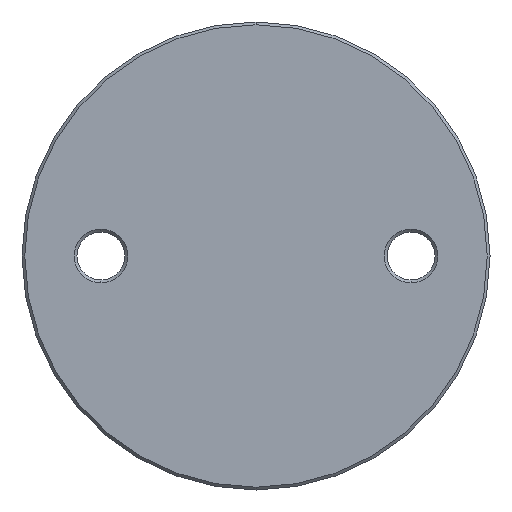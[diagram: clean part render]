
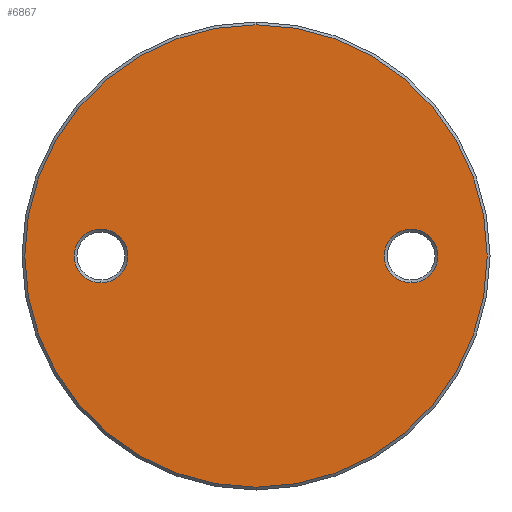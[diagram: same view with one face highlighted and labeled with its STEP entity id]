
A CAD part, front view. The second image highlights one B-rep face of the part: STEP entity #6867.
In plain terms, the highlighted planar face has unit normal (0, -1, 0).
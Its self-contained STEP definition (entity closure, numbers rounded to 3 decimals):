
#141 = ORIENTED_EDGE ( 'NONE', *, *, #7526, .T. ) ;
#202 = CIRCLE ( 'NONE', #10099, 41. ) ;
#822 = CARTESIAN_POINT ( 'NONE',  ( -27.5, -3., 4.75 ) ) ;
#955 = AXIS2_PLACEMENT_3D ( 'NONE', #5734, #6488, #1586 ) ;
#1092 = ORIENTED_EDGE ( 'NONE', *, *, #2969, .T. ) ;
#1266 = DIRECTION ( 'NONE',  ( 0., 1., 0. ) ) ;
#1325 = AXIS2_PLACEMENT_3D ( 'NONE', #9688, #6433, #3810 ) ;
#1586 = DIRECTION ( 'NONE',  ( 0., 0., -1. ) ) ;
#2655 = CIRCLE ( 'NONE', #8146, 4.75 ) ;
#2969 = EDGE_CURVE ( 'NONE', #4762, #7680, #2655, .T. ) ;
#3097 = AXIS2_PLACEMENT_3D ( 'NONE', #9011, #5774, #4050 ) ;
#3402 = ORIENTED_EDGE ( 'NONE', *, *, #8744, .T. ) ;
#3512 = EDGE_LOOP ( 'NONE', ( #3402, #9401 ) ) ;
#3684 = CARTESIAN_POINT ( 'NONE',  ( 27.5, -3., -4.75 ) ) ;
#3768 = CARTESIAN_POINT ( 'NONE',  ( 0., -3., 0. ) ) ;
#3810 = DIRECTION ( 'NONE',  ( 0., 0., -1. ) ) ;
#3935 = EDGE_LOOP ( 'NONE', ( #5545, #8198 ) ) ;
#3946 = VERTEX_POINT ( 'NONE', #6009 ) ;
#4036 = EDGE_CURVE ( 'NONE', #3946, #9305, #202, .T. ) ;
#4050 = DIRECTION ( 'NONE',  ( 0., 0., -1. ) ) ;
#4295 = CIRCLE ( 'NONE', #10004, 4.75 ) ;
#4617 = CARTESIAN_POINT ( 'NONE',  ( -27.5, -3., 0. ) ) ;
#4762 = VERTEX_POINT ( 'NONE', #3684 ) ;
#4942 = EDGE_CURVE ( 'NONE', #9305, #3946, #7500, .T. ) ;
#5001 = VERTEX_POINT ( 'NONE', #822 ) ;
#5030 = DIRECTION ( 'NONE',  ( 0., 1., 0. ) ) ;
#5103 = CIRCLE ( 'NONE', #3097, 4.75 ) ;
#5161 = CARTESIAN_POINT ( 'NONE',  ( 27.5, -3., 4.75 ) ) ;
#5168 = DIRECTION ( 'NONE',  ( 0., 0., -1. ) ) ;
#5320 = DIRECTION ( 'NONE',  ( 0., -1., 0. ) ) ;
#5512 = FACE_OUTER_BOUND ( 'NONE', #3935, .T. ) ;
#5545 = ORIENTED_EDGE ( 'NONE', *, *, #4036, .T. ) ;
#5734 = CARTESIAN_POINT ( 'NONE',  ( 0., -3., 0. ) ) ;
#5774 = DIRECTION ( 'NONE',  ( 0., 1., 0. ) ) ;
#5857 = DIRECTION ( 'NONE',  ( 0., 0., -1. ) ) ;
#6009 = CARTESIAN_POINT ( 'NONE',  ( 0., -3., 41. ) ) ;
#6230 = DIRECTION ( 'NONE',  ( 0., 0., -1. ) ) ;
#6433 = DIRECTION ( 'NONE',  ( 0., -1., 0. ) ) ;
#6488 = DIRECTION ( 'NONE',  ( 0., -1., 0. ) ) ;
#6563 = AXIS2_PLACEMENT_3D ( 'NONE', #7598, #10103, #5168 ) ;
#6787 = EDGE_LOOP ( 'NONE', ( #1092, #141 ) ) ;
#6853 = CIRCLE ( 'NONE', #6563, 4.75 ) ;
#6867 = ADVANCED_FACE ( 'NONE', ( #9641, #7805, #5512 ), #10516, .T. ) ;
#7500 = CIRCLE ( 'NONE', #955, 41. ) ;
#7526 = EDGE_CURVE ( 'NONE', #7680, #4762, #5103, .T. ) ;
#7598 = CARTESIAN_POINT ( 'NONE',  ( -27.5, -3., 0. ) ) ;
#7680 = VERTEX_POINT ( 'NONE', #5161 ) ;
#7708 = VERTEX_POINT ( 'NONE', #9989 ) ;
#7805 = FACE_BOUND ( 'NONE', #3512, .T. ) ;
#7858 = DIRECTION ( 'NONE',  ( 0., 0., -1. ) ) ;
#8146 = AXIS2_PLACEMENT_3D ( 'NONE', #9968, #5030, #5857 ) ;
#8198 = ORIENTED_EDGE ( 'NONE', *, *, #4942, .T. ) ;
#8744 = EDGE_CURVE ( 'NONE', #7708, #5001, #4295, .T. ) ;
#9011 = CARTESIAN_POINT ( 'NONE',  ( 27.5, -3., 0. ) ) ;
#9305 = VERTEX_POINT ( 'NONE', #10237 ) ;
#9401 = ORIENTED_EDGE ( 'NONE', *, *, #10565, .T. ) ;
#9641 = FACE_BOUND ( 'NONE', #6787, .T. ) ;
#9688 = CARTESIAN_POINT ( 'NONE',  ( 0., -3., 41.5 ) ) ;
#9968 = CARTESIAN_POINT ( 'NONE',  ( 27.5, -3., 0. ) ) ;
#9989 = CARTESIAN_POINT ( 'NONE',  ( -27.5, -3., -4.75 ) ) ;
#10004 = AXIS2_PLACEMENT_3D ( 'NONE', #4617, #1266, #6230 ) ;
#10099 = AXIS2_PLACEMENT_3D ( 'NONE', #3768, #5320, #7858 ) ;
#10103 = DIRECTION ( 'NONE',  ( 0., 1., 0. ) ) ;
#10237 = CARTESIAN_POINT ( 'NONE',  ( 0., -3., -41. ) ) ;
#10516 = PLANE ( 'NONE',  #1325 ) ;
#10565 = EDGE_CURVE ( 'NONE', #5001, #7708, #6853, .T. ) ;
